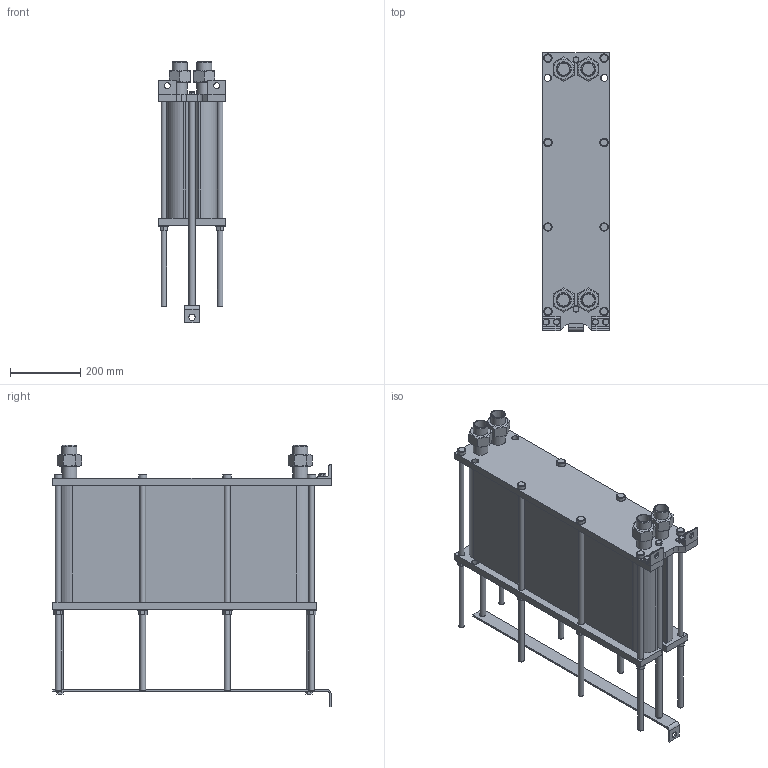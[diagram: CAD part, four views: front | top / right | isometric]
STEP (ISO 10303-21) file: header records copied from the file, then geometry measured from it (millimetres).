
FILE_DESCRIPTION(/* description */ (''),/* implementation_level */ '2;1');
FILE_NAME(/* name */ 'C:\Users\zhuro\Desktop\ENCO\TO\ЭН-008\ЭН-0,5-008-107-1.stp',/* time_stamp */ '2022-06-06T10:55:33+03:00',/* author */ ('zhuro'),/* organization */ (''),/* preprocessor_version */ 'ST-DEVELOPER v18.1',/* originating_system */ 'Autodesk Inventor 2022',/* authorisation */ '');
FILE_SCHEMA (('AUTOMOTIVE_DESIGN { 1 0 10303 214 3 1 1 }'));
Length unit declared in the file: millimetre
Products named in the file (1): ЭН-0,5-008-107-1
Bounding box: 190 x 790 x 742.6 mm (x, y, z)
Volume: 40812649.2 mm3; surface area: 2080736.6 mm2
Topology: 40 solids, 40 shells, 428 faces, 924 edges, 606 vertices
Faces by surface type: plane 273, cylinder 109, cone 40, torus 6
Full cylindrical faces by diameter (mm): 12 x6, 14 x2, 16 x20, 17 x8, 18 x19, 20 x5, 24 x8, 28 x8, 34.3 x8, 42.3 x8
Entity records: 15843 total; most frequent: CARTESIAN_POINT 5991, DIRECTION 1984, ORIENTED_EDGE 1848, EDGE_CURVE 924, AXIS2_PLACEMENT_3D 715, VERTEX_POINT 606, LINE 554, VECTOR 554
